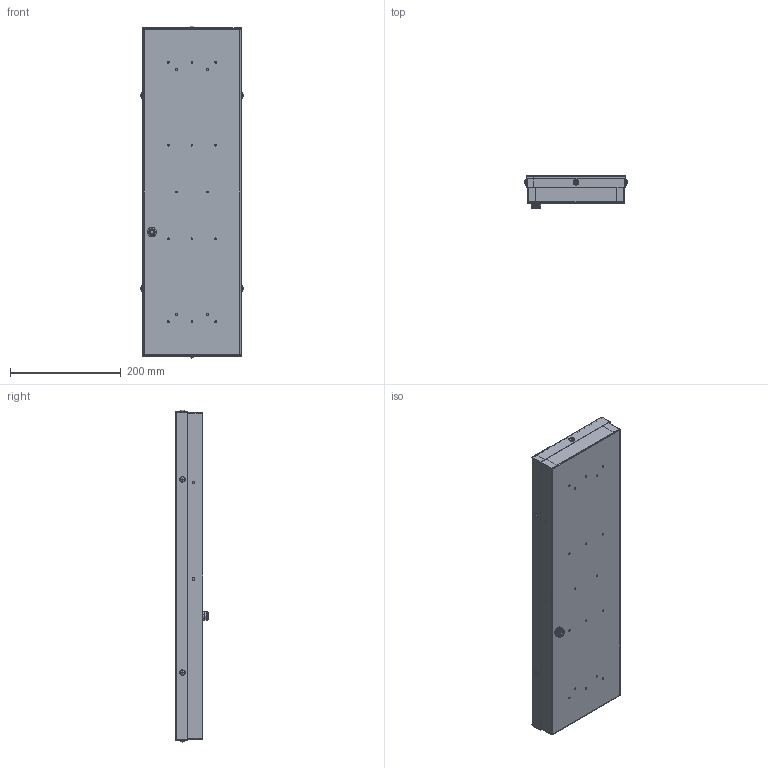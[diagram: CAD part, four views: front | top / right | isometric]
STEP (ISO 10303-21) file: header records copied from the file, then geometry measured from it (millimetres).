
FILE_DESCRIPTION(('STEP AP203'), '1');
FILE_NAME('ÄÊÏ003 01 000 ÑÁ - Ñâåòèëüíèê', '', ('UNSPECIFIED'), ('UNSPECIFIED'), 'ASCON STEP Converter 1.6', 'ASCON Math Kernel', '');
FILE_SCHEMA(('CONFIG_CONTROL_DESIGN'));
Length unit declared in the file: millimetre
Products named in the file (13): ДКП003 01 000; ДКП003 110 000; ДКП003 110 001; ДКП003 100 000; ДКП003 100 001
Assembly tree (23 placements, depth 3):
  ДКП003 01 000
    ДКП003 110 000
      ДКП003 110 001
      (unnamed)  x6
    ДКП003 100 000
      ДКП003 100 001  x2
    (unnamed)  x6
    (unnamed)
    (unnamed)
      (unnamed)
      (unnamed)
      (unnamed)
      (unnamed)
Bounding box: 185.93 x 60.5 x 600.93 mm (x, y, z)
Volume: 354935.3 mm3; surface area: 695942.6 mm2
Topology: 19 solids, 20 shells, 880 faces, 2355 edges, 1428 vertices
Faces by surface type: plane 299, cylinder 254, cone 251, bspline 55, torus 15, sphere 6
Full cylindrical faces by diameter (mm): 3.4 x6, 3.5 x18, 4 x6, 4.5 x2, 4.8 x6, 6 x7, 6.1 x6, 8.2 x1, 8.4 x1, 9 x6, 10 x6, 10.3 x1, 11.5 x1, 12.8 x4, 13 x1, 15.6 x1
Entity records: 35212 total; most frequent: CARTESIAN_POINT 25945, ORIENTED_EDGE 1688, DIRECTION 1536, EDGE_CURVE 847, VERTEX_POINT 567, AXIS2_PLACEMENT_3D 565, EDGE_LOOP 535, FACE_BOUND 422
